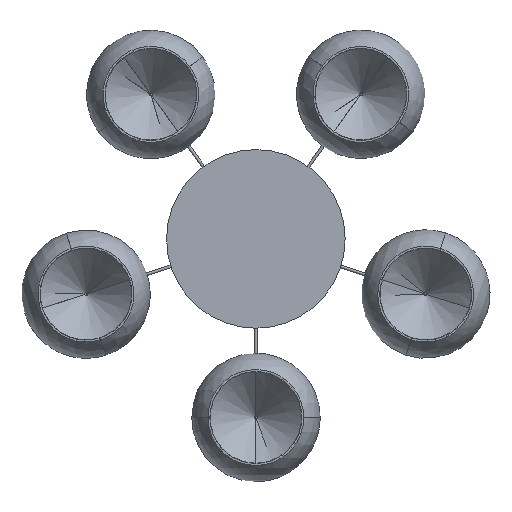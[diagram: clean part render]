
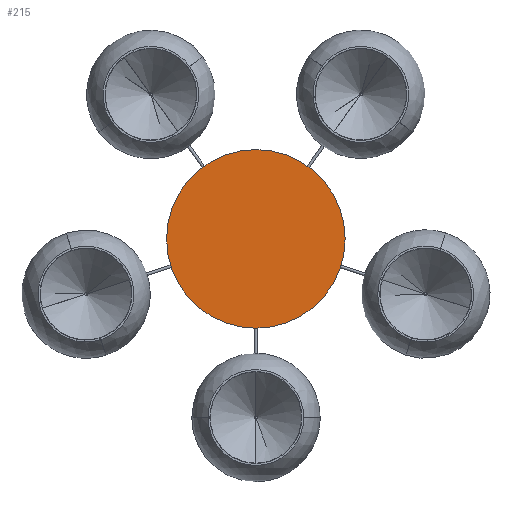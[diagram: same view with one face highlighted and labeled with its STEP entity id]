
A CAD part, front view. The second image highlights one B-rep face of the part: STEP entity #215.
In plain terms, the highlighted planar face has unit normal (0, -1, 0).
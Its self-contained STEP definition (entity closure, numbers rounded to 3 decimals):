
#215 = ADVANCED_FACE ( 'NONE', ( #6089 ), #3783, .F. ) ;
#759 = DIRECTION ( 'NONE',  ( 0., 0., 1. ) ) ;
#885 = CARTESIAN_POINT ( 'NONE',  ( 0., 0., 0. ) ) ;
#1419 = ORIENTED_EDGE ( 'NONE', *, *, #1545, .F. ) ;
#1545 = EDGE_CURVE ( 'NONE', #2166, #3938, #3354, .T. ) ;
#1695 = AXIS2_PLACEMENT_3D ( 'NONE', #885, #5676, #5157 ) ;
#2166 = VERTEX_POINT ( 'NONE', #3390 ) ;
#2692 = EDGE_LOOP ( 'NONE', ( #2984, #1419 ) ) ;
#2984 = ORIENTED_EDGE ( 'NONE', *, *, #5613, .F. ) ;
#3354 = CIRCLE ( 'NONE', #4433, 125. ) ;
#3390 = CARTESIAN_POINT ( 'NONE',  ( 0., 0., 125. ) ) ;
#3409 = CIRCLE ( 'NONE', #4298, 125. ) ;
#3472 = DIRECTION ( 'NONE',  ( 0., 0., 1. ) ) ;
#3783 = PLANE ( 'NONE',  #1695 ) ;
#3938 = VERTEX_POINT ( 'NONE', #4723 ) ;
#4298 = AXIS2_PLACEMENT_3D ( 'NONE', #5866, #5534, #759 ) ;
#4362 = CARTESIAN_POINT ( 'NONE',  ( 0., 0., 0. ) ) ;
#4433 = AXIS2_PLACEMENT_3D ( 'NONE', #4362, #5427, #3472 ) ;
#4723 = CARTESIAN_POINT ( 'NONE',  ( 0., 0., -125. ) ) ;
#5157 = DIRECTION ( 'NONE',  ( 0., 0., 1. ) ) ;
#5427 = DIRECTION ( 'NONE',  ( 0., 1., 0. ) ) ;
#5534 = DIRECTION ( 'NONE',  ( 0., 1., 0. ) ) ;
#5613 = EDGE_CURVE ( 'NONE', #3938, #2166, #3409, .T. ) ;
#5676 = DIRECTION ( 'NONE',  ( 0., 1., 0. ) ) ;
#5866 = CARTESIAN_POINT ( 'NONE',  ( 0., 0., 0. ) ) ;
#6089 = FACE_OUTER_BOUND ( 'NONE', #2692, .T. ) ;
